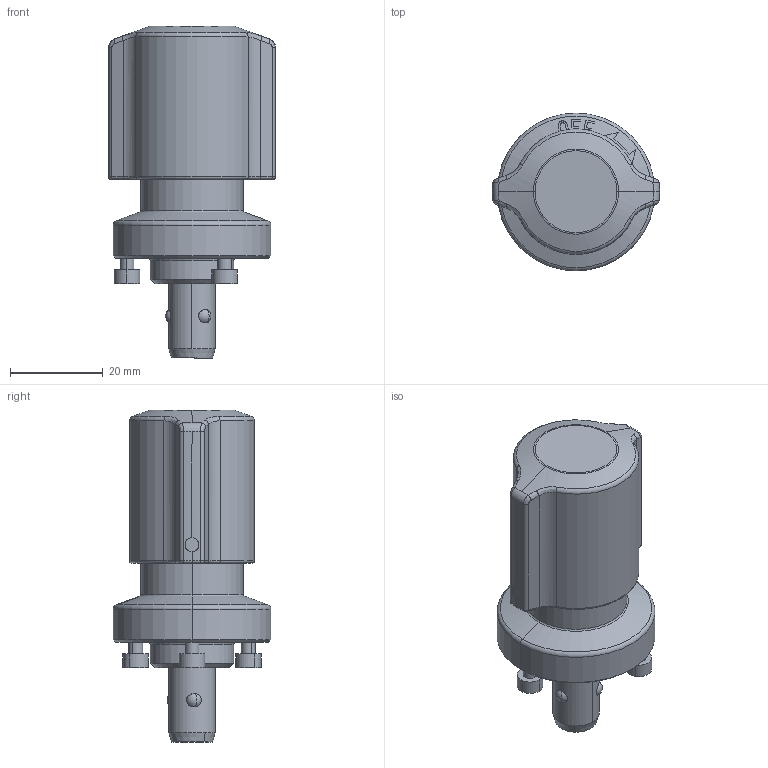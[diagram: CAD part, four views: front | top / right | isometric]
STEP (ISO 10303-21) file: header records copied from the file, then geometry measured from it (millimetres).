
FILE_DESCRIPTION (( 'STEP AP203' ), '1' );
FILE_NAME ('QCWEA1034-14-SUS.STEP', '2024-03-06T00:55:33', ( '' ), ( '' ), 'SwSTEP 2.0', 'SolidWorks 2022', '' );
FILE_SCHEMA (( 'CONFIG_CONTROL_DESIGN' ));
Length unit declared in the file: millimetre
Products named in the file (6): QCWEA1034-14-SUS; QCWEA1034-14-SUS_04; QCWEA1034-14-SUS_03; QCWEA1034-14-SUS_01; QCWEA1034-14-SUS_05; QCWEA1034-14-SUS_02
Assembly tree (5 placements, depth 2):
  QCWEA1034-14-SUS
    QCWEA1034-14-SUS_01
    QCWEA1034-14-SUS_02
    QCWEA1034-14-SUS_03
    QCWEA1034-14-SUS_04
    QCWEA1034-14-SUS_05
Bounding box: 36 x 34 x 71.5 mm (x, y, z)
Volume: 32371.4 mm3; surface area: 18576.9 mm2
Topology: 5 solids, 5 shells, 253 faces, 579 edges, 366 vertices
Faces by surface type: plane 88, cylinder 65, bspline 44, torus 28, cone 22, sphere 6
Entity records: 9630 total; most frequent: CARTESIAN_POINT 3580, ORIENTED_EDGE 1158, DIRECTION 1050, EDGE_CURVE 579, AXIS2_PLACEMENT_3D 420, VERTEX_POINT 366, EDGE_LOOP 285, FACE_OUTER_BOUND 253
